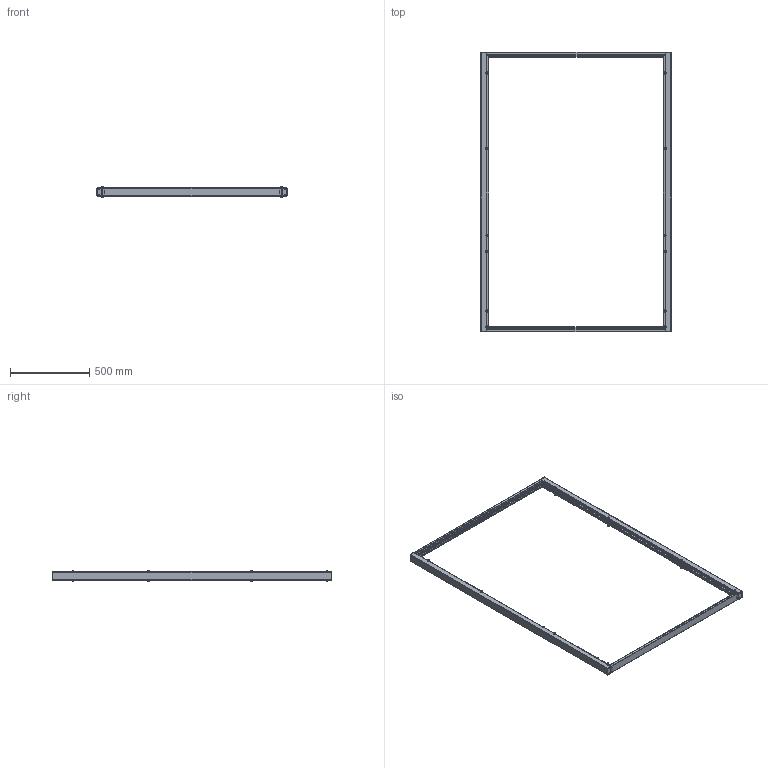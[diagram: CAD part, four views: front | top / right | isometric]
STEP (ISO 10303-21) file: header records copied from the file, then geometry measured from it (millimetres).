
FILE_DESCRIPTION(('CAx-IF Rec.Pracs.---Model Styling and Organization---1.2---2011-12-15','CAx-IF Rec.Pracs.---Geometric and Assembly Validation Properties---4.1---2014-06-16','CAx-IF Rec.Pracs.---PMI Polyline Presentation---2.0---2013-05-24'),'2;1');
FILE_NAME('R5KFRE18120M.stp','2021-05-05T16:25:25+03:00',(''),(''),'STEP Interface 4.4 by CT CoreTechnologie','3D_Evolution4.4 by CT CoreTechnologie','');
FILE_SCHEMA(('AUTOMOTIVE_DESIGN { 1 0 10303 214 1 1 1 1 }'));
Length unit declared in the file: millimetre
Products named in the file (12): R5KFRE18120M; AC00C164; M6x16-GOST 11738-84 (DIN 912)_thread; RB.0880.00.00.0 ÑÁ_-05 (-18120); RB.0880.01.00.0 ÑÁ_-05 (-1200)(1); RB.0880.01.02.0_-05; RB.0880.01.01.0_-05; RB.0880.01.00.0 ÑÁ_-05 (-1200)(2); RB.0880.02.00.0 ÑÁ_-00 (-1800)(1); RB.0880.02.02.0_-00; RB.0880.02.01.0_-00; RB.0880.02.00.0 ÑÁ_-00 (-1800)(2)
Assembly tree (37 placements, depth 4):
  R5KFRE18120M
    AC00C164  x8
    M6x16-GOST 11738-84 (DIN 912)_thread  x16
    RB.0880.00.00.0 ÑÁ_-05 (-18120)
      RB.0880.01.00.0 ÑÁ_-05 (-1200)(1)
        RB.0880.01.02.0_-05
        RB.0880.01.01.0_-05
      RB.0880.01.00.0 ÑÁ_-05 (-1200)(2)
        RB.0880.01.01.0_-05
        RB.0880.01.02.0_-05
      RB.0880.02.00.0 ÑÁ_-00 (-1800)(1)
        RB.0880.02.02.0_-00
        RB.0880.02.01.0_-00
      RB.0880.02.00.0 ÑÁ_-00 (-1800)(2)
        RB.0880.02.02.0_-00
        RB.0880.02.01.0_-00
Bounding box: 1197.5 x 1761 x 66.5 mm (x, y, z)
Surface area: 2314106.8 mm2 (no closed solid volume)
Topology: 0 solids, 54 shells, 1484 faces, 3888 edges, 2480 vertices
Faces by surface type: plane 856, cylinder 452, bspline 176
Entity records: 18495 total; most frequent: CARTESIAN_POINT 3306, DIRECTION 2980, ORIENTED_EDGE 2964, EDGE_CURVE 1482, VECTOR 1022, LINE 1022, AXIS2_PLACEMENT_3D 979, VERTEX_POINT 977
